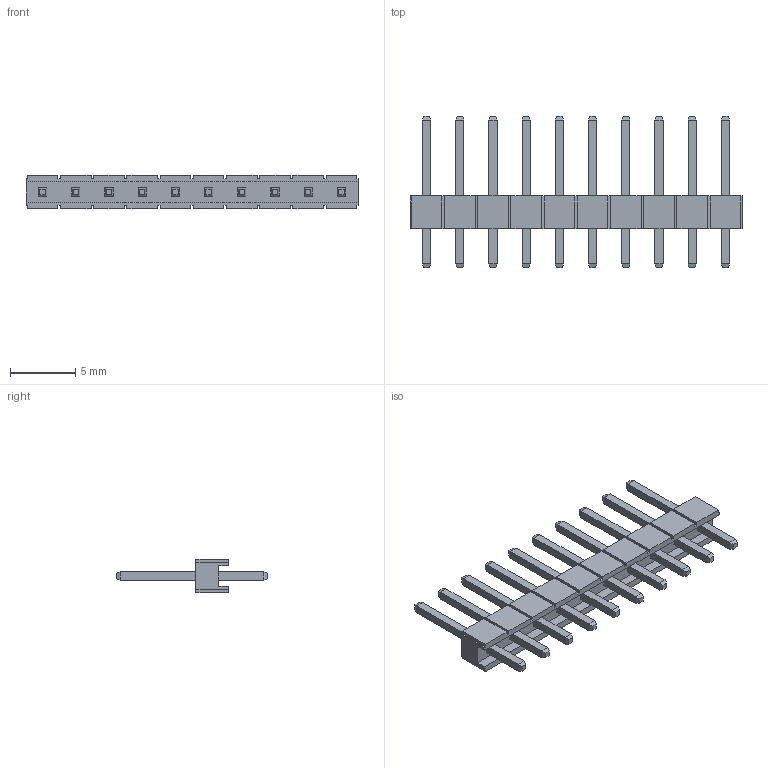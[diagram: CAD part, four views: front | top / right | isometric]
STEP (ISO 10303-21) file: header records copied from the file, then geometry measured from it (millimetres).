
FILE_DESCRIPTION (( 'STEP AP214' ), '1' );
FILE_NAME ('DS1021-1_10SF11.STEP', '2024-07-16T02:36:14', ( '' ), ( '' ), 'SwSTEP 2.0', 'SolidWorks 2021', '' );
FILE_SCHEMA (( 'AUTOMOTIVE_DESIGN' ));
Length unit declared in the file: millimetre
Products named in the file (1): DS1021-1_10SF11
Bounding box: 25.4 x 11.6 x 2.54 mm (x, y, z)
Volume: 169.1 mm3; surface area: 660.3 mm2
Topology: 11 solids, 11 shells, 270 faces, 664 edges, 416 vertices
Faces by surface type: plane 270
Entity records: 9238 total; most frequent: CARTESIAN_POINT 1351, ORIENTED_EDGE 1328, DIRECTION 1206, EDGE_CURVE 664, VECTOR 664, LINE 664, VERTEX_POINT 416, EDGE_LOOP 290
